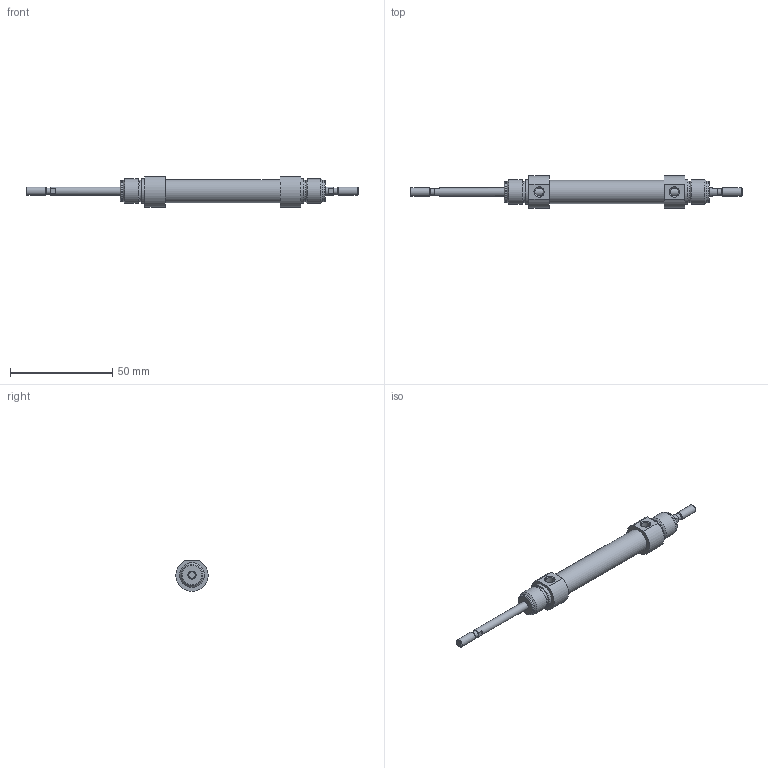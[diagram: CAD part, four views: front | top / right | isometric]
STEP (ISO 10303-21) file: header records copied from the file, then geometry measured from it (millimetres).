
FILE_DESCRIPTION( ( 'STEP AP203' ), '1' );
FILE_NAME( '//expscmdclustefs.cadenas.external/client_exchange/iodir/jobs/output/wkb68273059_no0/STEP/M101-010-0030--__0__2_03.stp', ' ', ( ' ' ), ( ' ' ), 'PSStep 15.0.47', 'PARTsolutions', ' ' );
FILE_SCHEMA( ( 'CONFIG_CONTROL_DESIGN' ) );
Length unit declared in the file: millimetre
Products named in the file (3): M101-010-0030-- [0]; HI_M101-010-0030---[0]-z; HI_M101-010-0030---[0]-k
Assembly tree (2 placements, depth 2):
  M101-010-0030-- [0]
    HI_M101-010-0030---[0]-z
    HI_M101-010-0030---[0]-k
Bounding box: 162 x 15.77 x 14.87 mm (x, y, z)
Volume: 10615.1 mm3; surface area: 8797.6 mm2
Topology: 2 solids, 2 shells, 71 faces, 145 edges, 88 vertices
Faces by surface type: plane 32, cylinder 23, cone 14, torus 2
Full cylindrical faces by diameter (mm): 3.141 x2, 4 x6, 4.134 x2, 10 x2, 10.466 x4, 11.3 x1, 12 x4
Entity records: 1838 total; most frequent: CARTESIAN_POINT 358, DIRECTION 312, ORIENTED_EDGE 212, AXIS2_PLACEMENT_3D 140, EDGE_LOOP 120, EDGE_CURVE 106, FACE_OUTER_BOUND 94, VERTEX_POINT 82
